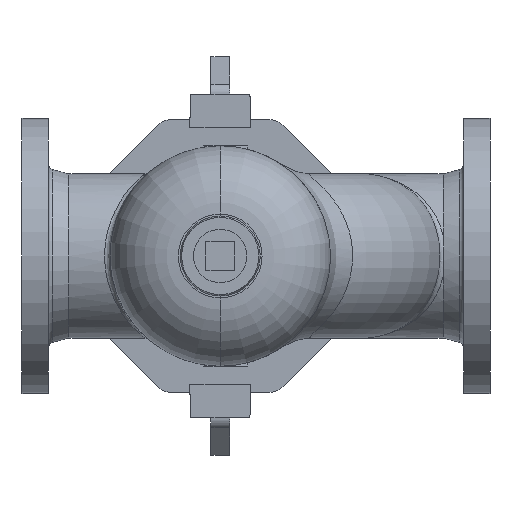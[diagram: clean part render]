
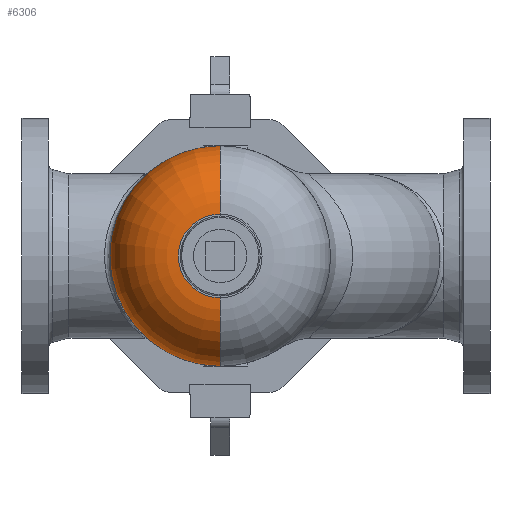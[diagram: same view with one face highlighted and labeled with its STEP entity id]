
A CAD part, front view. The second image highlights one B-rep face of the part: STEP entity #6306.
In plain terms, the highlighted toroidal (fillet/blend) face has major radius 38 mm and minor radius 62 mm.
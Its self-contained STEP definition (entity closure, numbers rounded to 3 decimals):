
#165 = AXIS2_PLACEMENT_3D ( 'NONE', #8630, #5850, #7303 ) ;
#167 = ORIENTED_EDGE ( 'NONE', *, *, #9825, .F. ) ;
#219 = CARTESIAN_POINT ( 'NONE',  ( 0., -335.5, 0. ) ) ;
#717 = DIRECTION ( 'NONE',  ( 1., 0., 0. ) ) ;
#729 = DIRECTION ( 'NONE',  ( 0., 0., 1. ) ) ;
#813 = EDGE_CURVE ( 'NONE', #10094, #7777, #5572, .T. ) ;
#1347 = CARTESIAN_POINT ( 'NONE',  ( 0., -273.5, 0. ) ) ;
#2081 = DIRECTION ( 'NONE',  ( 0., 0., 1. ) ) ;
#2133 = CARTESIAN_POINT ( 'NONE',  ( 0., -335.5, 38. ) ) ;
#2473 = ORIENTED_EDGE ( 'NONE', *, *, #813, .T. ) ;
#3654 = TOROIDAL_SURFACE ( 'NONE', #7595, 38., 62. ) ;
#3892 = DIRECTION ( 'NONE',  ( -1., 0., 0. ) ) ;
#4101 = CARTESIAN_POINT ( 'NONE',  ( 0., -273.5, 100. ) ) ;
#4314 = CARTESIAN_POINT ( 'NONE',  ( 0., -335.5, -38. ) ) ;
#4412 = FACE_OUTER_BOUND ( 'NONE', #8152, .T. ) ;
#4467 = DIRECTION ( 'NONE',  ( 0., 1., 0. ) ) ;
#4566 = CIRCLE ( 'NONE', #165, 100. ) ;
#5513 = CARTESIAN_POINT ( 'NONE',  ( 0., -273.5, -38. ) ) ;
#5539 = CIRCLE ( 'NONE', #9153, 62. ) ;
#5572 = CIRCLE ( 'NONE', #8877, 62. ) ;
#5850 = DIRECTION ( 'NONE',  ( 0., 1., 0. ) ) ;
#6059 = DIRECTION ( 'NONE',  ( 0., 0., 1. ) ) ;
#6306 = ADVANCED_FACE ( 'NONE', ( #4412 ), #3654, .T. ) ;
#7237 = CIRCLE ( 'NONE', #10024, 38. ) ;
#7303 = DIRECTION ( 'NONE',  ( 0., 0., 1. ) ) ;
#7335 = VERTEX_POINT ( 'NONE', #4314 ) ;
#7595 = AXIS2_PLACEMENT_3D ( 'NONE', #1347, #4467, #6059 ) ;
#7682 = ORIENTED_EDGE ( 'NONE', *, *, #8763, .F. ) ;
#7769 = EDGE_CURVE ( 'NONE', #7335, #10094, #7237, .T. ) ;
#7777 = VERTEX_POINT ( 'NONE', #4101 ) ;
#8119 = DIRECTION ( 'NONE',  ( 0., 1., 0. ) ) ;
#8152 = EDGE_LOOP ( 'NONE', ( #167, #9676, #2473, #7682 ) ) ;
#8186 = CARTESIAN_POINT ( 'NONE',  ( 0., -273.5, -100. ) ) ;
#8275 = VERTEX_POINT ( 'NONE', #8186 ) ;
#8574 = CARTESIAN_POINT ( 'NONE',  ( 0., -273.5, 38. ) ) ;
#8630 = CARTESIAN_POINT ( 'NONE',  ( 0., -273.5, 0. ) ) ;
#8658 = DIRECTION ( 'NONE',  ( 0., 0., -1. ) ) ;
#8763 = EDGE_CURVE ( 'NONE', #8275, #7777, #4566, .T. ) ;
#8877 = AXIS2_PLACEMENT_3D ( 'NONE', #8574, #3892, #729 ) ;
#9153 = AXIS2_PLACEMENT_3D ( 'NONE', #5513, #717, #8658 ) ;
#9676 = ORIENTED_EDGE ( 'NONE', *, *, #7769, .T. ) ;
#9825 = EDGE_CURVE ( 'NONE', #7335, #8275, #5539, .T. ) ;
#10024 = AXIS2_PLACEMENT_3D ( 'NONE', #219, #8119, #2081 ) ;
#10094 = VERTEX_POINT ( 'NONE', #2133 ) ;
